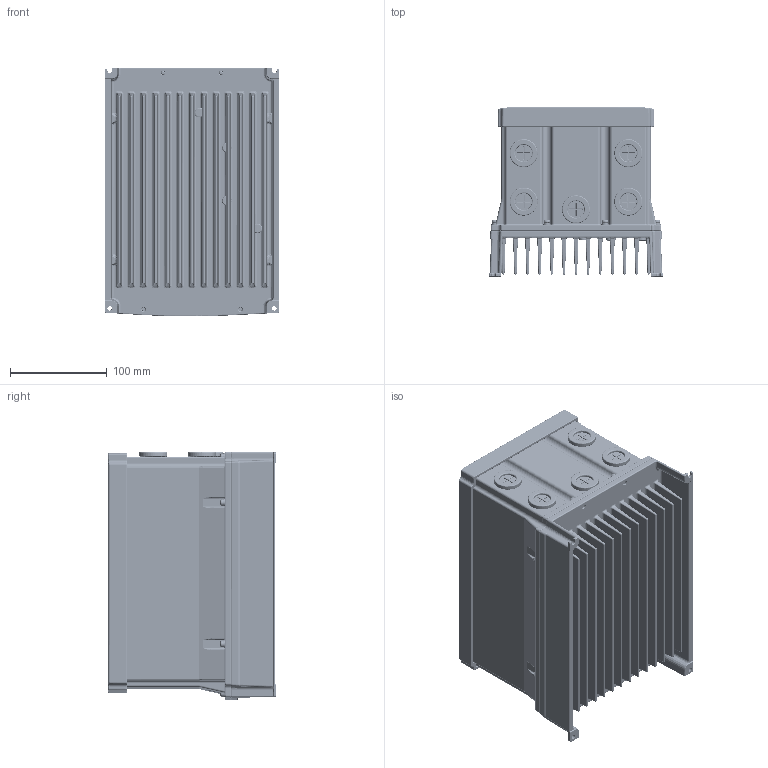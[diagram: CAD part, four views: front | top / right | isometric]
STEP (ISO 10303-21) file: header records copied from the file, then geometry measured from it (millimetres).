
FILE_DESCRIPTION (( 'STEP AP203' ), '1' );
FILE_NAME ('S100_004-008_IP66.STEP', '2020-03-30T13:40:06', ( '' ), ( '' ), 'SwSTEP 2.0', 'SolidWorks 2012', '' );
FILE_SCHEMA (( 'CONFIG_CONTROL_DESIGN' ));
Products named in the file (13): s100_ip66_frame_a_asm_min; S100_004-008_IP66; MANIFOLD_SOLID_BREP_509773; CONDUIT_PACKING-22_3_5; M4_L14_SCREW__INST_V2_1_ASM; TOTAL_ASSY_IP66_008__ASM_9_ASM; IG7_IP66_KNOB_SCREW_V2_V2_1; IG7_IP66_037_SWITCH_CORE_V2__V2; TOP_COVER_LA1_V2_3; MANIFOLD_SOLID_BREP_509506; IP66_HS_V2_6; IG7-KEYPAD_SHEET-V3_V2_1; IP66_BODY_VV2_V3_V2_13
Assembly tree (28 placements, depth 5):
  S100_004-008_IP66
    s100_ip66_frame_a_asm_min
      TOTAL_ASSY_IP66_008__ASM_9_ASM
        IP66_HS_V2_6
        IP66_BODY_VV2_V3_V2_13
        IG7-KEYPAD_SHEET-V3_V2_1
        TOP_COVER_LA1_V2_3
        IG7_IP66_037_SWITCH_CORE_V2__V2
        IG7_IP66_KNOB_SCREW_V2_V2_1  x6
        M4_L14_SCREW__INST_V2_1_ASM  x8
          MANIFOLD_SOLID_BREP_509506
          MANIFOLD_SOLID_BREP_509773
        CONDUIT_PACKING-22_3_5  x5
Bounding box: 180 x 174.2 x 256.57 mm (x, y, z)
Volume: 23850.8 mm3; surface area: 779802.3 mm2
Topology: 30 solids, 35 shells, 5356 faces, 13951 edges, 8824 vertices
Faces by surface type: plane 1842, cylinder 1797, bspline 1319, cone 393, torus 5
Entity records: 232956 total; most frequent: CARTESIAN_POINT 131990, ORIENTED_EDGE 24458, DIRECTION 14954, EDGE_CURVE 12343, VERTEX_POINT 7807, B_SPLINE_CURVE_WITH_KNOTS 5463, AXIS2_PLACEMENT_3D 5322, EDGE_LOOP 5018
